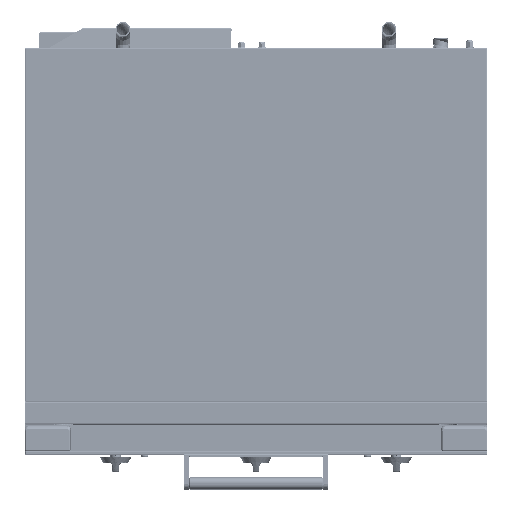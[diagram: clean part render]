
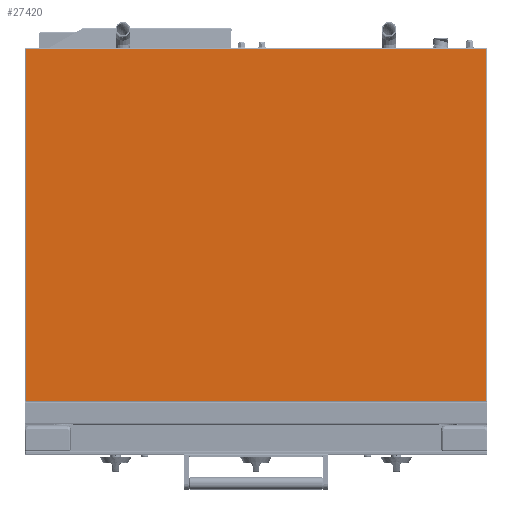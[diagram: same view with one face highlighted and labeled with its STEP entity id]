
A CAD part, top view. The second image highlights one B-rep face of the part: STEP entity #27420.
In plain terms, the highlighted planar face has unit normal (0, 0, 1).
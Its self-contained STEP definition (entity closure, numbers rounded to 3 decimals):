
#27420=ADVANCED_FACE('',(#36729),#30443,.T.);
#30443=PLANE('',#142037);
#36729=FACE_OUTER_BOUND('',#45229,.T.);
#45229=EDGE_LOOP('',(#81291,#81292,#81293,#81294));
#81291=ORIENTED_EDGE('',*,*,#111569,.T.);
#81292=ORIENTED_EDGE('',*,*,#111561,.T.);
#81293=ORIENTED_EDGE('',*,*,#111570,.T.);
#81294=ORIENTED_EDGE('',*,*,#111553,.T.);
#94405=VERTEX_POINT('',#267607);
#94406=VERTEX_POINT('',#267609);
#94411=VERTEX_POINT('',#267680);
#94412=VERTEX_POINT('',#267682);
#111553=EDGE_CURVE('',#94406,#94405,#121137,.T.);
#111561=EDGE_CURVE('',#94412,#94411,#121139,.T.);
#111569=EDGE_CURVE('',#94405,#94412,#121141,.T.);
#111570=EDGE_CURVE('',#94411,#94406,#121142,.T.);
#121137=LINE('',#267608,#130271);
#121139=LINE('',#267681,#130273);
#121141=LINE('',#267730,#130275);
#121142=LINE('',#267731,#130276);
#130271=VECTOR('',#173653,1.);
#130273=VECTOR('',#173657,1.);
#130275=VECTOR('',#173663,1.);
#130276=VECTOR('',#173664,1.);
#142037=AXIS2_PLACEMENT_3D('',#267732,#173665,#173666);
#173653=DIRECTION('',(1.,0.,0.));
#173657=DIRECTION('',(-1.,0.,0.));
#173663=DIRECTION('',(0.,1.,0.));
#173664=DIRECTION('',(0.,-1.,0.));
#173665=DIRECTION('',(0.,0.,1.));
#173666=DIRECTION('',(1.,0.,0.));
#267607=CARTESIAN_POINT('',(397.2,-59.696,-42.983));
#267608=CARTESIAN_POINT('',(397.2,-59.696,-42.983));
#267609=CARTESIAN_POINT('',(-397.2,-59.696,-42.983));
#267680=CARTESIAN_POINT('',(-397.2,547.204,-42.983));
#267681=CARTESIAN_POINT('',(397.2,547.204,-42.983));
#267682=CARTESIAN_POINT('',(397.2,547.204,-42.983));
#267730=CARTESIAN_POINT('',(397.2,243.754,-42.983));
#267731=CARTESIAN_POINT('',(-397.2,243.754,-42.983));
#267732=CARTESIAN_POINT('',(0.,243.754,-42.983));
